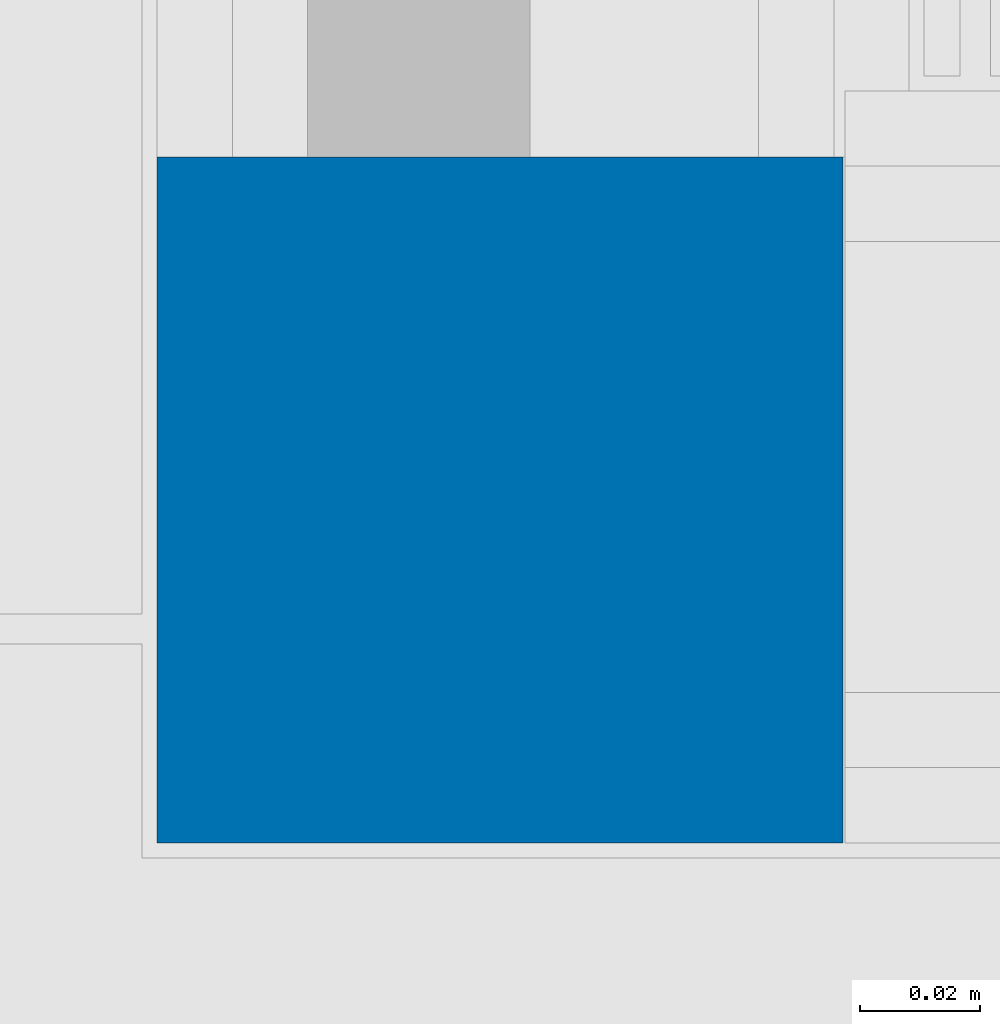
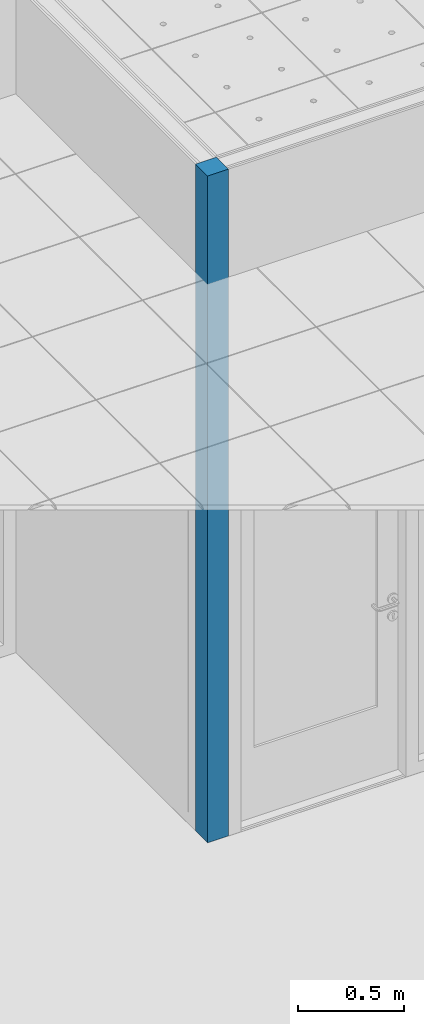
# One storey, part 26 of 321: 1 column.
"""IFC2X3 building model written with IfcOpenShell, lengths in millimetres."""

from ifc_helpers import new_model, entity, si_unit, converted_unit, derived_unit, money_unit, direction, frame, origin_with_axes, place, context, subcontext, project, spatial, faceted_brep, material, type_object, element, save


model = new_model("IFC2X3")

# Units and contexts
model_context = context("Model", 3, precision=0.01, world=origin_with_axes(), true_north=direction((0.0, 1.0)))
plan_context = context("Plan", 3, precision=0.01, world=origin_with_axes(), true_north=direction((0.0, 1.0)))
body_context = subcontext(model_context, "Body", "Model", "MODEL_VIEW")
ifc_project = project(units=[si_unit("LENGTHUNIT", "METRE", prefix="MILLI"), si_unit("AREAUNIT", "SQUARE_METRE"), si_unit("VOLUMEUNIT", "CUBIC_METRE"), converted_unit("PLANEANGLEUNIT", "DEGREE", entity("IfcPlaneAngleMeasure", 0.0174532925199), si_unit("PLANEANGLEUNIT", "RADIAN"), dimensions=[0, 0, 0, 0, 0, 0, 0]), money_unit("EUR"), converted_unit("TIMEUNIT", "Year", entity("IfcTimeMeasure", 31556926.0), si_unit("TIMEUNIT", "SECOND"), dimensions=[0, 0, 1, 0, 0, 0, 0]), si_unit("MASSUNIT", "GRAM", prefix="KILO"), si_unit("THERMODYNAMICTEMPERATUREUNIT", "DEGREE_CELSIUS"), si_unit("LUMINOUSINTENSITYUNIT", "LUMEN"), si_unit("ENERGYUNIT", "JOULE", prefix="MEGA"), derived_unit("THERMALCONDUCTANCEUNIT", [(si_unit("POWERUNIT", "WATT"), 1), (si_unit("LENGTHUNIT", "METRE"), -1), (si_unit("THERMODYNAMICTEMPERATUREUNIT", "KELVIN"), -1)]), derived_unit("SPECIFICHEATCAPACITYUNIT", [(si_unit("ENERGYUNIT", "JOULE"), 1), (si_unit("MASSUNIT", "GRAM", prefix="KILO"), -1), (si_unit("THERMODYNAMICTEMPERATUREUNIT", "KELVIN"), -1)]), derived_unit("MASSDENSITYUNIT", [(si_unit("MASSUNIT", "GRAM", prefix="KILO"), 1), (si_unit("VOLUMEUNIT", "CUBIC_METRE"), -1)])], contexts=[model_context, plan_context])

# Site, building, storey
site_placement = place(None, origin_with_axes())
site = spatial("IfcSite", under=ifc_project, at=site_placement, Name="Fortuinstraat Woensdrecht", CompositionType="ELEMENT")
building_placement = place(site_placement, origin_with_axes())
building = spatial("IfcBuilding", under=site, at=building_placement, Name="IKC Fortuna", CompositionType="ELEMENT")
storey_placement = place(building_placement, frame((0.0, 0.0, 4000.0), z_axis=(0.0, 0.0, 1.0), x_axis=(1.0, 0.0, 0.0)))
storey = spatial("IfcBuildingStorey", under=building, at=storey_placement, Name="01 eerste verdieping", CompositionType="ELEMENT", Elevation=4000.0)

# Column
ifc_material = material(Name="Hout - Hardhout")
column_type = type_object("IfcColumnType", Name="Hout - Hardhout 114 x 114", PredefinedType="COLUMN")
column_placement = place(storey_placement, frame((25609.9349765, 29406.7966283, 0.0), z_axis=(0.0, 0.0, 1.0), x_axis=(1.0, 0.0, 0.0)))
element("IfcColumn", 1, at=column_placement, inside=storey, type_object=column_type, material=ifc_material, Name="28_Kolom_hoekstijl kozijnen", ObjectType="COLUMN", context=body_context, shape_type="Brep", body=[
    faceted_brep([(57.0, -57.0, 3840.0), (-57.0, -57.0, 3840.0), (-57.0, -57.0, 0.0), (57.0, -57.0, 0.0), (57.0, 57.0, 3840.0), (-57.0, 57.0, 3840.0), (-57.0, 57.0, 0.0), (57.0, 57.0, 0.0)], [[[0, 1, 2, 3]], [[4, 5, 1, 0]], [[1, 5, 6, 2]], [[7, 3, 2, 6]], [[4, 0, 3, 7]], [[5, 4, 7, 6]]]),
])

save(model, "model.ifc")
